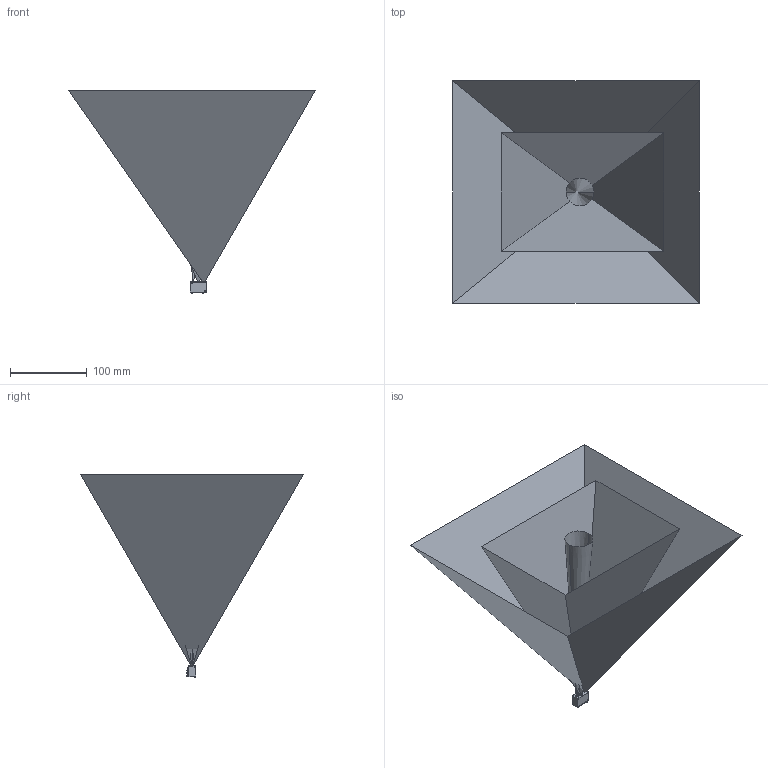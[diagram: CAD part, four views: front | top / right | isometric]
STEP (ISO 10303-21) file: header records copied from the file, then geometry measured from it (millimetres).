
FILE_DESCRIPTION((''),'2;1');
FILE_NAME('RT211','2019-08-05T',('ASUS'),(''),'PRO/ENGINEER BY PARAMETRIC TECHNOLOGY CORPORATION, 2008380','PRO/ENGINEER BY PARAMETRIC TECHNOLOGY CORPORATION, 2008380','');
FILE_SCHEMA(('CONFIG_CONTROL_DESIGN'));
Length unit declared in the file: millimetre
Products named in the file (1): RT211
Bounding box: 322.2 x 291.22 x 264.6 mm (x, y, z)
Surface area: 295738.8 mm2 (no closed solid volume)
Topology: 0 solids, 5 shells, 372 faces, 1007 edges, 678 vertices
Faces by surface type: plane 261, cylinder 58, bspline 32, cone 13, torus 8
Entity records: 15076 total; most frequent: CARTESIAN_POINT 6197, ORIENTED_EDGE 1984, DIRECTION 1515, EDGE_CURVE 1007, VERTEX_POINT 678, VECTOR 625, LINE 625, AXIS2_PLACEMENT_3D 445
